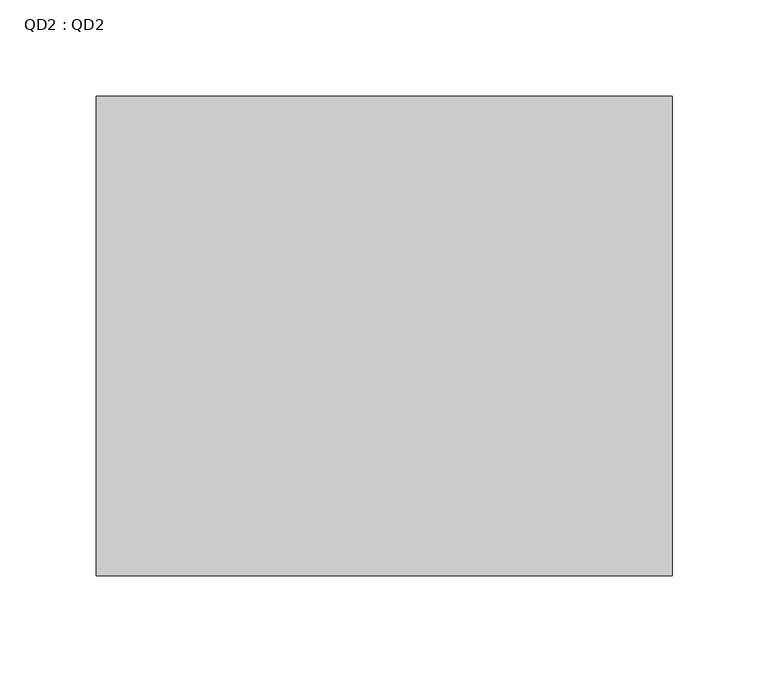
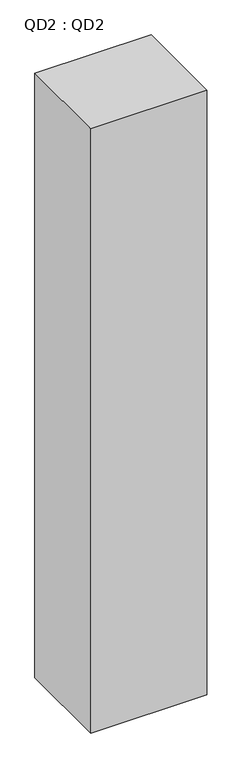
"""IFC4 building model written with IfcOpenShell, lengths in millimetres: proxy geometry, QD2 : QD2."""

from ifc_helpers import new_model, si_unit, frame, origin, place, context, project, spatial, polyline, outline, extrude, source, transform, mapped, element, save


def qd2_qd2_999fa9a0(model_context):
    return source(origin(), model_context, "Body", "SweptSolid", [
        extrude(outline(polyline([(23642.9, 13072.1), (23642.9, 13322.1), (23942.9, 13322.1), (23942.9, 13072.1), (23642.9, 13072.1)])), frame((0.0, 0.0, -300.0), z_axis=(0.0, 0.0, 1.0), x_axis=(1.0, 0.0, 0.0)), (0.0, 0.0, 1.0), 1650.0),
    ])


if __name__ == "__main__":
    model = new_model("IFC4")
    model_context = context("Model", 3, world=origin())
    ifc_project = project(units=[si_unit("LENGTHUNIT", "METRE", prefix="MILLI")], contexts=[model_context])
    site = spatial("IfcSite", under=ifc_project)
    building = spatial("IfcBuilding", under=site)
    placement = place(None, origin())
    qd2_qd2_shape = qd2_qd2_999fa9a0(model_context)
    element("IfcBuildingElementProxy", 1, Name="QD2 : QD2", ObjectType="QD2 : QD2", at=placement, inside=building, context=model_context, shape_type="MappedRepresentation", body=[
        mapped(qd2_qd2_shape, transform((0.0, 0.0, 0.0), x_axis=(1.0, 0.0, 0.0), y_axis=(0.0, 1.0, 0.0), z_axis=(0.0, 0.0, 1.0))),
    ])
    save(model, "model.ifc")
